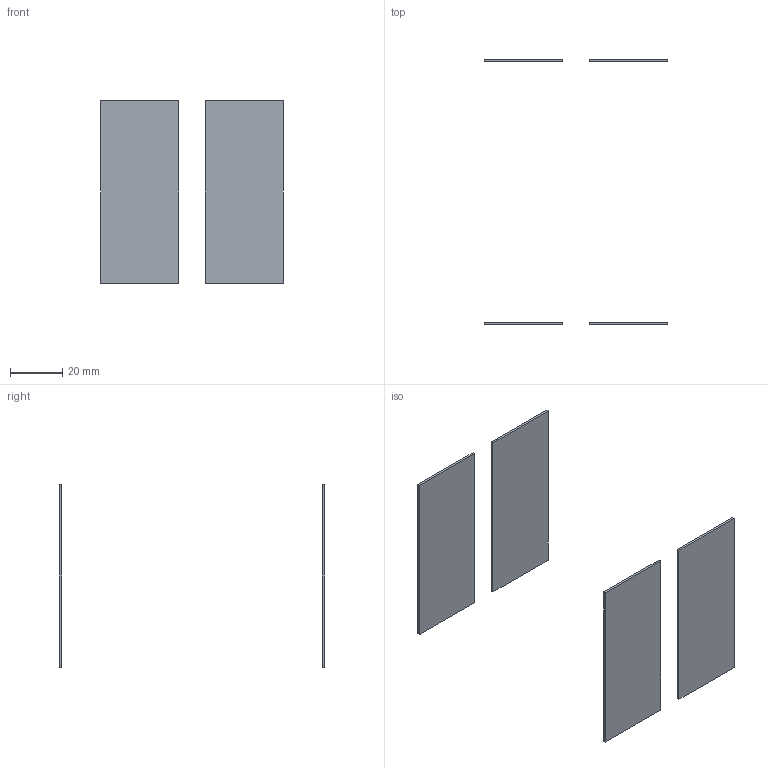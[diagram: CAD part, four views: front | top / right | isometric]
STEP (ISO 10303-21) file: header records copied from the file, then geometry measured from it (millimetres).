
FILE_DESCRIPTION(('Open CASCADE Model'),'2;1');
FILE_NAME('aux_cells','2026-08-12T02:42:46',('Author'),('Open CASCADE'), 'Open CASCADE STEP processor 7.9','build123d','Unknown');
FILE_SCHEMA(('AUTOMOTIVE_DESIGN { 1 0 10303 214 1 1 1 1 }'));
Length unit declared in the file: millimetre
Products named in the file (5): aux_cells; COMPOUND
Assembly tree (4 placements, depth 2):
  aux_cells
    COMPOUND
    COMPOUND
    COMPOUND
    COMPOUND
Bounding box: 70 x 101.6 x 70 mm (x, y, z)
Volume: 6720 mm3; surface area: 17440 mm2
Topology: 4 solids, 4 shells, 24 faces, 48 edges, 32 vertices
Faces by surface type: plane 24
Entity records: 1312 total; most frequent: CARTESIAN_POINT 205, DIRECTION 202, LINE 144, VECTOR 144, ORIENTED_EDGE 96, PCURVE 96, DEFINITIONAL_REPRESENTATION 96, EDGE_CURVE 48
